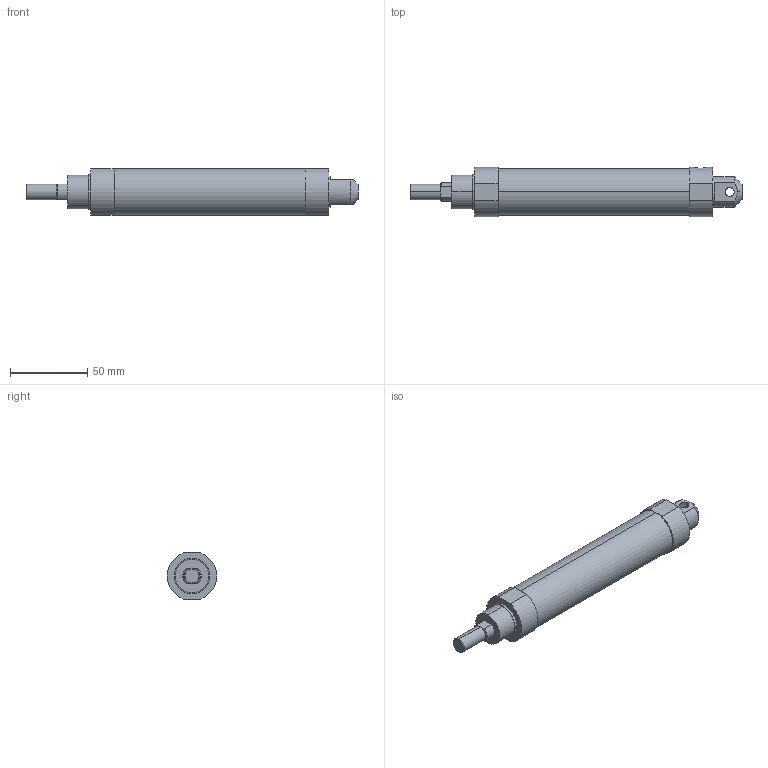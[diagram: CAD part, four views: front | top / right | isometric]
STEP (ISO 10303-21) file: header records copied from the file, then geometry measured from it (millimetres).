
FILE_DESCRIPTION (( 'STEP AP203' ), '1' );
FILE_NAME ('J#1-25-50-C.STEP', '2016-03-08T06:49:01', ( '' ), ( '' ), 'SwSTEP 2.0', 'SolidWorks 2014', '' );
FILE_SCHEMA (( 'CONFIG_CONTROL_DESIGN' ));
Length unit declared in the file: millimetre
Products named in the file (1): J#1-25-50-C
Bounding box: 215 x 32 x 30 mm (x, y, z)
Volume: 122913.9 mm3; surface area: 19973.5 mm2
Topology: 1 solids, 1 shells, 49 faces, 112 edges, 70 vertices
Faces by surface type: plane 23, cylinder 20, cone 6
Entity records: 1561 total; most frequent: CARTESIAN_POINT 350, DIRECTION 250, ORIENTED_EDGE 224, EDGE_CURVE 112, AXIS2_PLACEMENT_3D 98, VERTEX_POINT 70, EDGE_LOOP 56, VECTOR 54
